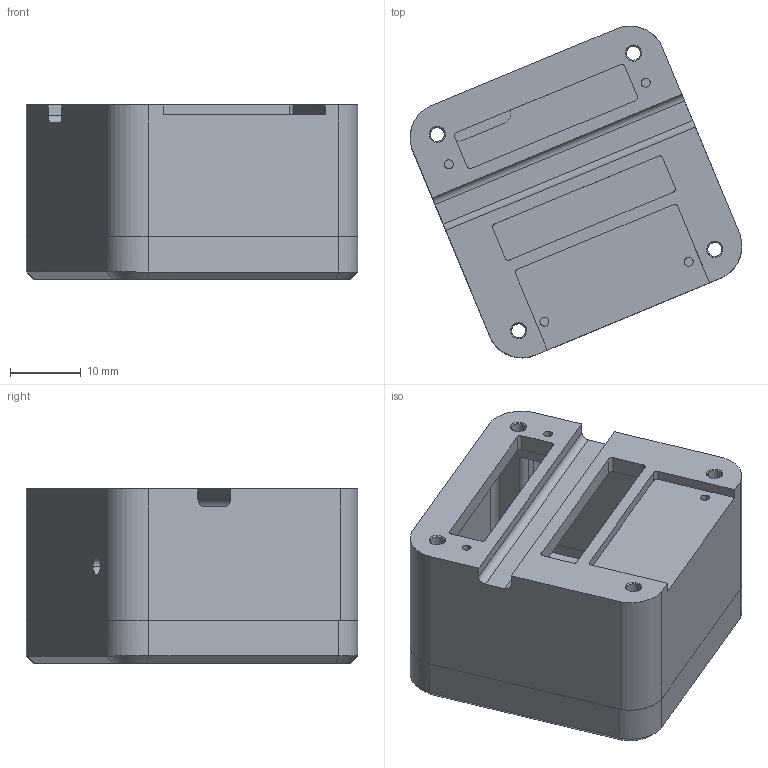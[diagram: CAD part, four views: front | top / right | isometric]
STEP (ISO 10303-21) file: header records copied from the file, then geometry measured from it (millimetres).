
FILE_DESCRIPTION (( 'STEP AP214' ), '1' );
FILE_NAME ('Cube Red2.STEP', '2024-03-11T02:39:08', ( '' ), ( '' ), 'SwSTEP 2.0', 'SolidWorks 2018', '' );
FILE_SCHEMA (( 'AUTOMOTIVE_DESIGN' ));
Length unit declared in the file: millimetre
Products named in the file (3): 396-00111 Cube Red Bottom Case V2; 396-00092 Cube Red Top Case with waterproof.stp; Cube Red2
Assembly tree (2 placements, depth 2):
  Cube Red2
    396-00111 Cube Red Bottom Case V2
    396-00092 Cube Red Top Case with waterproof.stp
Bounding box: 46.85 x 46.85 x 24.6 mm (x, y, z)
Volume: 10569 mm3; surface area: 13110.2 mm2
Topology: 2 solids, 3 shells, 293 faces, 778 edges, 500 vertices
Faces by surface type: cylinder 141, plane 121, cone 24, torus 4, sphere 3
Entity records: 9572 total; most frequent: CARTESIAN_POINT 2043, DIRECTION 1568, ORIENTED_EDGE 1550, EDGE_CURVE 775, AXIS2_PLACEMENT_3D 561, VERTEX_POINT 500, VECTOR 446, LINE 446
